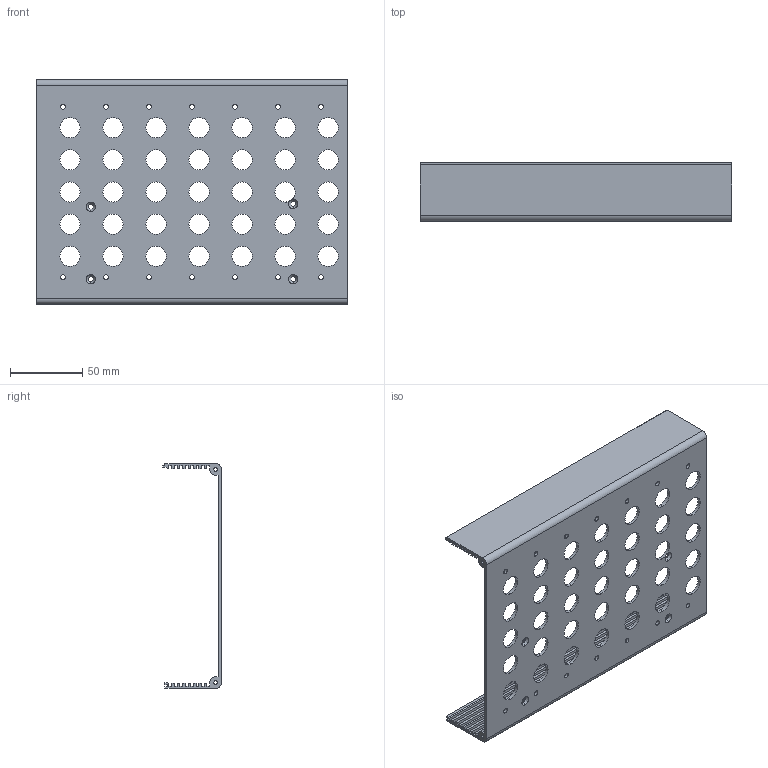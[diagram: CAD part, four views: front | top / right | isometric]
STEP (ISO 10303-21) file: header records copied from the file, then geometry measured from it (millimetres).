
FILE_DESCRIPTION (( 'STEP AP214' ), '1' );
FILE_NAME ('Box_Top.STEP', '2015-03-16T04:47:01', ( '' ), ( '' ), '', '', '' );
FILE_SCHEMA (( '' ));
Length unit declared in the file: millimetre
Products named in the file (1): Box_Top
Bounding box: 215.5 x 40.6 x 155.5 mm (x, y, z)
Volume: 107712.5 mm3; surface area: 111337.5 mm2
Topology: 1 solids, 1 shells, 204 faces, 601 edges, 398 vertices
Faces by surface type: cylinder 114, plane 82, cone 8
Entity records: 7129 total; most frequent: DIRECTION 1248, CARTESIAN_POINT 1213, ORIENTED_EDGE 1202, EDGE_CURVE 601, AXIS2_PLACEMENT_3D 443, VERTEX_POINT 398, LINE 362, VECTOR 362
